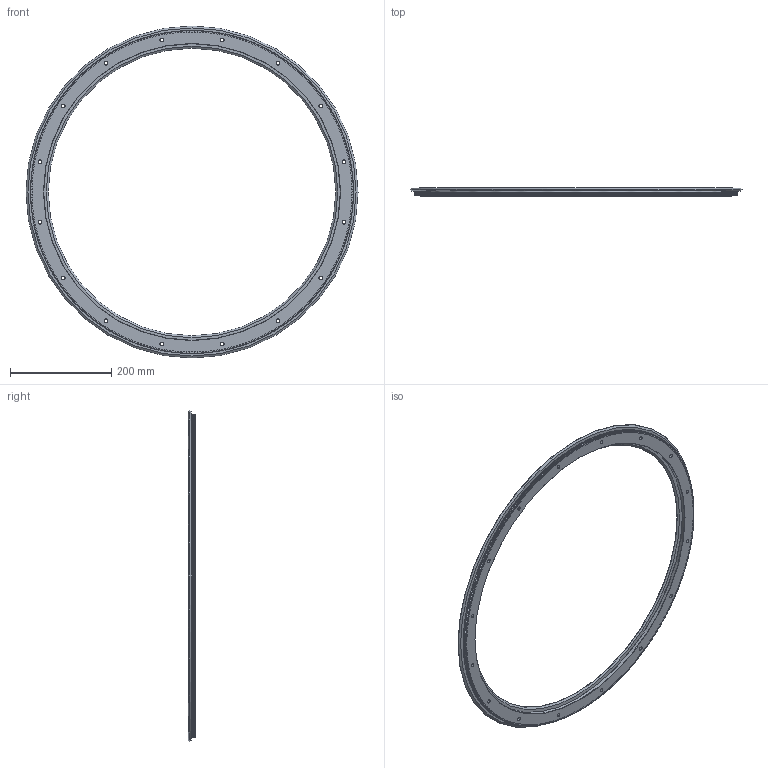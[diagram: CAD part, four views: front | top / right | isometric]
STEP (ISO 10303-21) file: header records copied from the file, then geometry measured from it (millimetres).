
FILE_DESCRIPTION( ( 'STEP AP203' ), '1' );
FILE_NAME( 'p:/temp/worker_26/temp/exporttempdir_4444_9_XzkCv/format_0/R44 612 R360 P.stp', '2021-07-19T05:42:11', ( 'License CC BY-ND 4.0' ), ( 'CADENAS' ), ' ', 'PARTsolutions', ' ' );
FILE_SCHEMA( ( 'CONFIG_CONTROL_DESIGN' ) );
Length unit declared in the file: millimetre
Products named in the file (1): _R44 612 R360 P
Bounding box: 655.87 x 15.5 x 655.87 mm (x, y, z)
Volume: 886492.7 mm3; surface area: 253304.3 mm2
Topology: 1 solids, 1 shells, 3893 faces, 10325 edges, 6453 vertices
Faces by surface type: plane 2563, cylinder 671, cone 657, torus 2
Full cylindrical faces by diameter (mm): 6.8 x16, 11 x16, 586 x1, 591.2 x1, 632.8 x1
Entity records: 120732 total; most frequent: CARTESIAN_POINT 24429, ORIENTED_EDGE 20532, DIRECTION 20054, EDGE_CURVE 10266, AXIS2_PLACEMENT_3D 7166, VERTEX_POINT 6453, LINE 5722, VECTOR 5722
